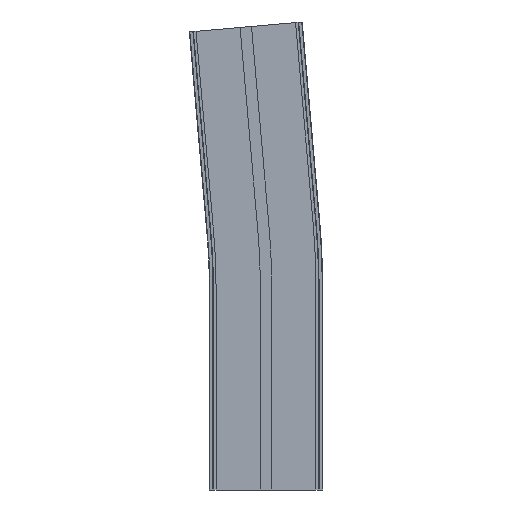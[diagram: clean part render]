
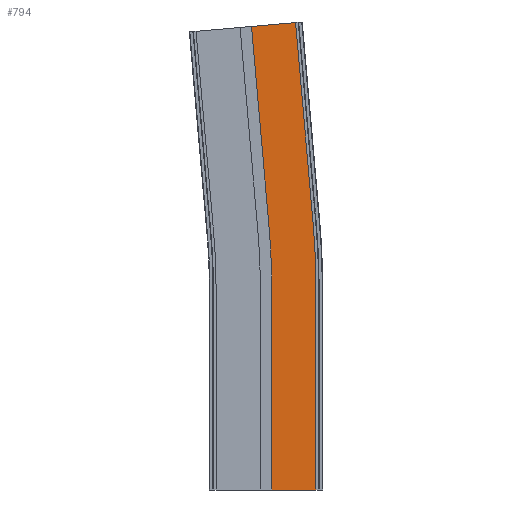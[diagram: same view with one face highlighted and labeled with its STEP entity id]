
A CAD part, left-side view. The second image highlights one B-rep face of the part: STEP entity #794.
In plain terms, the highlighted planar face has unit normal (-1, 0, 0).
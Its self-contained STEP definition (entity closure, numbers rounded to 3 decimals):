
#22 = VERTEX_POINT ( 'NONE', #2246 ) ;
#54 = DIRECTION ( 'NONE',  ( 0., 1., 0. ) ) ;
#80 = ORIENTED_EDGE ( 'NONE', *, *, #2900, .F. ) ;
#109 = CARTESIAN_POINT ( 'NONE',  ( -32.5, -4.25, 150. ) ) ;
#157 = EDGE_LOOP ( 'NONE', ( #2983, #897, #2625, #3097, #1778, #786, #80, #378 ) ) ;
#205 = VERTEX_POINT ( 'NONE', #2140 ) ;
#244 = DIRECTION ( 'NONE',  ( -1., 0., 0. ) ) ;
#256 = CARTESIAN_POINT ( 'NONE',  ( -32.5, -34.957, 196.803 ) ) ;
#268 = LINE ( 'NONE', #109, #1567 ) ;
#285 = AXIS2_PLACEMENT_3D ( 'NONE', #1178, #960, #3126 ) ;
#290 = CARTESIAN_POINT ( 'NONE',  ( -32.5, -34.957, 196.803 ) ) ;
#322 = EDGE_CURVE ( 'NONE', #22, #205, #2262, .T. ) ;
#339 = CARTESIAN_POINT ( 'NONE',  ( -32.5, 10.742, 343.377 ) ) ;
#342 = CARTESIAN_POINT ( 'NONE',  ( -32.5, -37., 150. ) ) ;
#378 = ORIENTED_EDGE ( 'NONE', *, *, #1172, .T. ) ;
#465 = AXIS2_PLACEMENT_3D ( 'NONE', #2903, #244, #3119 ) ;
#528 = CARTESIAN_POINT ( 'NONE',  ( -32.5, -21.883, 346.232 ) ) ;
#566 = EDGE_CURVE ( 'NONE', #2175, #22, #1425, .T. ) ;
#571 = FACE_OUTER_BOUND ( 'NONE', #157, .T. ) ;
#666 = CARTESIAN_POINT ( 'NONE',  ( -32.5, -37., 150. ) ) ;
#773 = VECTOR ( 'NONE', #2836, 1000. ) ;
#786 = ORIENTED_EDGE ( 'NONE', *, *, #3113, .F. ) ;
#794 = ADVANCED_FACE ( 'NONE', ( #571 ), #2592, .T. ) ;
#831 = CARTESIAN_POINT ( 'NONE',  ( -32.5, -4.25, 150. ) ) ;
#897 = ORIENTED_EDGE ( 'NONE', *, *, #566, .F. ) ;
#960 = DIRECTION ( 'NONE',  ( -1., 0., 0. ) ) ;
#1053 = CIRCLE ( 'NONE', #465, 504.25 ) ;
#1169 = CARTESIAN_POINT ( 'NONE',  ( -32.5, -37., 150. ) ) ;
#1172 = EDGE_CURVE ( 'NONE', #1647, #205, #268, .T. ) ;
#1178 = CARTESIAN_POINT ( 'NONE',  ( -32.5, 500., 150. ) ) ;
#1225 = CIRCLE ( 'NONE', #285, 537. ) ;
#1300 = DIRECTION ( 'NONE',  ( 0., 0.087, 0.996 ) ) ;
#1324 = CARTESIAN_POINT ( 'NONE',  ( -32.5, -2.331, 193.948 ) ) ;
#1415 = DIRECTION ( 'NONE',  ( 0., -1., 0. ) ) ;
#1425 = LINE ( 'NONE', #1169, #773 ) ;
#1456 = EDGE_CURVE ( 'NONE', #2175, #1796, #1225, .T. ) ;
#1485 = CARTESIAN_POINT ( 'NONE',  ( -32.5, -2.331, 193.948 ) ) ;
#1567 = VECTOR ( 'NONE', #2058, 1000. ) ;
#1647 = VERTEX_POINT ( 'NONE', #831 ) ;
#1729 = LINE ( 'NONE', #1872, #2994 ) ;
#1771 = VERTEX_POINT ( 'NONE', #528 ) ;
#1778 = ORIENTED_EDGE ( 'NONE', *, *, #2646, .T. ) ;
#1796 = VERTEX_POINT ( 'NONE', #256 ) ;
#1872 = CARTESIAN_POINT ( 'NONE',  ( -32.5, -21.883, 346.232 ) ) ;
#1885 = DIRECTION ( 'NONE',  ( -1., 0., 0. ) ) ;
#2009 = EDGE_CURVE ( 'NONE', #1796, #1771, #3001, .T. ) ;
#2058 = DIRECTION ( 'NONE',  ( 0., 0., -1. ) ) ;
#2075 = LINE ( 'NONE', #1324, #2968 ) ;
#2140 = CARTESIAN_POINT ( 'NONE',  ( -32.5, -4.25, 0. ) ) ;
#2175 = VERTEX_POINT ( 'NONE', #342 ) ;
#2246 = CARTESIAN_POINT ( 'NONE',  ( -32.5, -37., 0. ) ) ;
#2247 = AXIS2_PLACEMENT_3D ( 'NONE', #666, #1885, #1415 ) ;
#2262 = LINE ( 'NONE', #2697, #2333 ) ;
#2314 = DIRECTION ( 'NONE',  ( 0., 0.996, -0.087 ) ) ;
#2333 = VECTOR ( 'NONE', #54, 1000. ) ;
#2531 = VERTEX_POINT ( 'NONE', #339 ) ;
#2537 = DIRECTION ( 'NONE',  ( 0., 0.087, 0.996 ) ) ;
#2592 = PLANE ( 'NONE',  #2247 ) ;
#2625 = ORIENTED_EDGE ( 'NONE', *, *, #1456, .T. ) ;
#2646 = EDGE_CURVE ( 'NONE', #1771, #2531, #1729, .T. ) ;
#2697 = CARTESIAN_POINT ( 'NONE',  ( -32.5, -37., 0. ) ) ;
#2836 = DIRECTION ( 'NONE',  ( 0., 0., -1. ) ) ;
#2900 = EDGE_CURVE ( 'NONE', #1647, #3040, #1053, .T. ) ;
#2903 = CARTESIAN_POINT ( 'NONE',  ( -32.5, 500., 150. ) ) ;
#2932 = VECTOR ( 'NONE', #1300, 1000. ) ;
#2968 = VECTOR ( 'NONE', #2537, 1000. ) ;
#2983 = ORIENTED_EDGE ( 'NONE', *, *, #322, .F. ) ;
#2994 = VECTOR ( 'NONE', #2314, 1000. ) ;
#3001 = LINE ( 'NONE', #290, #2932 ) ;
#3040 = VERTEX_POINT ( 'NONE', #1485 ) ;
#3097 = ORIENTED_EDGE ( 'NONE', *, *, #2009, .T. ) ;
#3113 = EDGE_CURVE ( 'NONE', #3040, #2531, #2075, .T. ) ;
#3119 = DIRECTION ( 'NONE',  ( 0., 0., 1. ) ) ;
#3126 = DIRECTION ( 'NONE',  ( 0., 0., 1. ) ) ;
